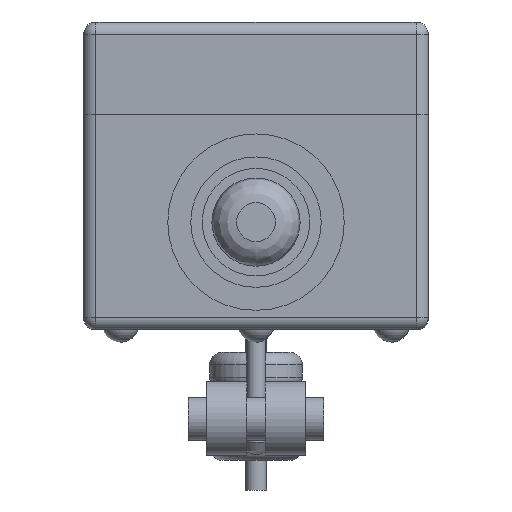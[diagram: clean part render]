
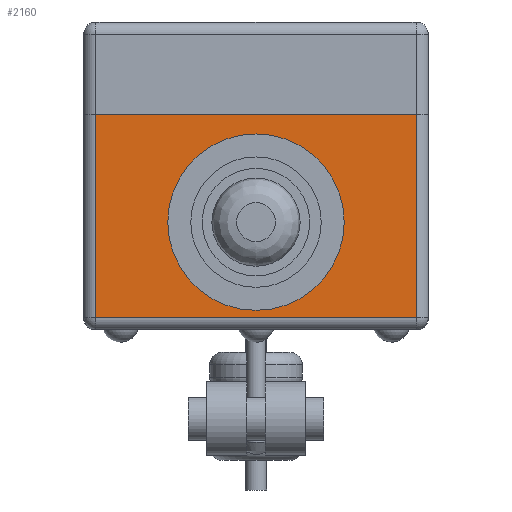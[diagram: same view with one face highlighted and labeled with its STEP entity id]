
A CAD part, front view. The second image highlights one B-rep face of the part: STEP entity #2160.
In plain terms, the highlighted planar face has unit normal (0, -1, 0).
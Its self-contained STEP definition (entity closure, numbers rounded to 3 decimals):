
#120=PLANE('',#2375);
#213=LINE('',#3460,#363);
#217=LINE('',#3469,#367);
#220=LINE('',#3476,#370);
#237=LINE('',#3529,#387);
#363=VECTOR('',#2747,10.);
#367=VECTOR('',#2757,10.);
#370=VECTOR('',#2764,10.);
#387=VECTOR('',#2821,10.);
#591=FACE_OUTER_BOUND('',#764,.T.);
#764=EDGE_LOOP('',(#1715,#1716,#1717,#1718));
#1077=VERTEX_POINT('',#3432);
#1085=VERTEX_POINT('',#3453);
#1089=VERTEX_POINT('',#3467);
#1090=VERTEX_POINT('',#3472);
#1304=EDGE_CURVE('',#1085,#1077,#213,.T.);
#1309=EDGE_CURVE('',#1089,#1085,#217,.T.);
#1313=EDGE_CURVE('',#1077,#1090,#220,.T.);
#1337=EDGE_CURVE('',#1090,#1089,#237,.T.);
#1715=ORIENTED_EDGE('',*,*,#1309,.F.);
#1716=ORIENTED_EDGE('',*,*,#1337,.F.);
#1717=ORIENTED_EDGE('',*,*,#1313,.F.);
#1718=ORIENTED_EDGE('',*,*,#1304,.F.);
#2160=ADVANCED_FACE('',(#591),#120,.T.);
#2375=AXIS2_PLACEMENT_3D('',#3528,#2819,#2820);
#2747=DIRECTION('',(-1.,0.,0.));
#2757=DIRECTION('',(0.,0.,-1.));
#2764=DIRECTION('',(0.,0.,1.));
#2819=DIRECTION('center_axis',(0.,-1.,0.));
#2820=DIRECTION('ref_axis',(0.,0.,-1.));
#2821=DIRECTION('',(1.,0.,0.));
#3432=CARTESIAN_POINT('',(1.,6.,1.));
#3453=CARTESIAN_POINT('',(27.,6.,1.));
#3460=CARTESIAN_POINT('',(0.,6.,1.));
#3467=CARTESIAN_POINT('',(27.,6.,17.5));
#3469=CARTESIAN_POINT('',(27.,6.,11.795));
#3472=CARTESIAN_POINT('',(1.,6.,17.5));
#3476=CARTESIAN_POINT('',(1.,6.,11.795));
#3528=CARTESIAN_POINT('Origin',(0.,6.,17.5));
#3529=CARTESIAN_POINT('',(0.,6.,17.5));
